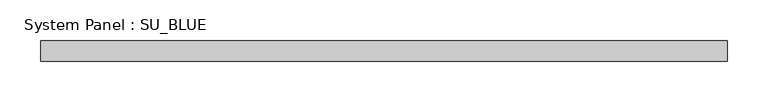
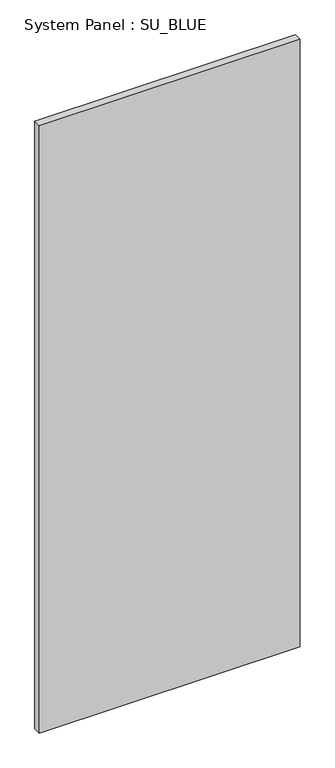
"""IFC4 building model written with IfcOpenShell, lengths in millimetres: plate geometry, System Panel : SU_BLUE."""

from ifc_helpers import new_model, si_unit, origin, origin_with_axes, place, context, project, spatial, polyline, outline, extrude, source, transform, mapped, element, save


def system_panel_su_blue_3eab7189(model_context):
    return source(origin(), model_context, "Body", "SweptSolid", [
        extrude(outline(polyline([(420.7943243, 19.05), (-420.7943243, 19.05), (-420.7943243, 44.45), (420.7943243, 44.45), (420.7943243, 19.05)])), origin_with_axes(), (0.0, 0.0, 1.0), 2070.1),
    ])


if __name__ == "__main__":
    model = new_model("IFC4")
    model_context = context("Model", 3, world=origin())
    ifc_project = project(units=[si_unit("LENGTHUNIT", "METRE", prefix="MILLI")], contexts=[model_context])
    site = spatial("IfcSite", under=ifc_project)
    building = spatial("IfcBuilding", under=site)
    placement = place(None, origin())
    system_panel_su_blue_shape = system_panel_su_blue_3eab7189(model_context)
    element("IfcPlate", 1, ObjectType="System Panel : SU_BLUE", at=placement, inside=building, context=model_context, shape_type="MappedRepresentation", body=[
        mapped(system_panel_su_blue_shape, transform((0.0, 0.0, 0.0), x_axis=(1.0, 0.0, 0.0), y_axis=(0.0, 1.0, 0.0), z_axis=(0.0, 0.0, 1.0))),
    ])
    save(model, "model.ifc")
